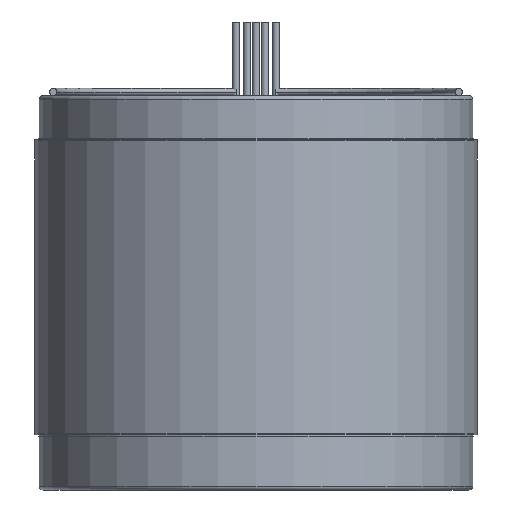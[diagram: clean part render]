
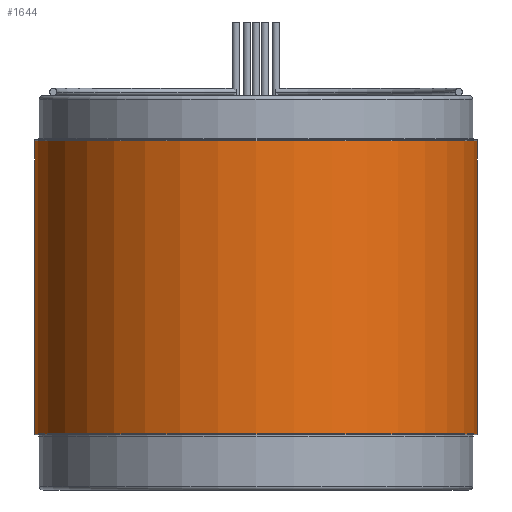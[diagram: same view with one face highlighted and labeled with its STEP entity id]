
A CAD part, front view. The second image highlights one B-rep face of the part: STEP entity #1644.
In plain terms, the highlighted cylindrical face has radius 76.2 mm (diameter 152.4 mm), a partial arc.
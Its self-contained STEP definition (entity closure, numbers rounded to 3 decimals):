
#171 = DIRECTION ( 'NONE',  ( 0., 0., 1. ) ) ;
#261 = CARTESIAN_POINT ( 'NONE',  ( -76.2, 0., -50.444 ) ) ;
#269 = AXIS2_PLACEMENT_3D ( 'NONE', #3615, #647, #601 ) ;
#353 = EDGE_LOOP ( 'NONE', ( #656, #1509, #2109, #2924 ) ) ;
#510 = DIRECTION ( 'NONE',  ( 0., 0., -1. ) ) ;
#523 = AXIS2_PLACEMENT_3D ( 'NONE', #1053, #171, #3749 ) ;
#586 = VECTOR ( 'NONE', #510, 1000. ) ;
#601 = DIRECTION ( 'NONE',  ( 1., 0., 0. ) ) ;
#646 = EDGE_CURVE ( 'NONE', #3794, #3463, #2694, .T. ) ;
#647 = DIRECTION ( 'NONE',  ( 0., 0., 1. ) ) ;
#656 = ORIENTED_EDGE ( 'NONE', *, *, #646, .F. ) ;
#896 = AXIS2_PLACEMENT_3D ( 'NONE', #2310, #2034, #2594 ) ;
#992 = DIRECTION ( 'NONE',  ( 0., 0., -1. ) ) ;
#1053 = CARTESIAN_POINT ( 'NONE',  ( 0., 0., -50.444 ) ) ;
#1151 = CARTESIAN_POINT ( 'NONE',  ( 76.2, 0., -50.444 ) ) ;
#1475 = CARTESIAN_POINT ( 'NONE',  ( -76.2, 0., 50.444 ) ) ;
#1503 = CIRCLE ( 'NONE', #523, 76.2 ) ;
#1509 = ORIENTED_EDGE ( 'NONE', *, *, #2697, .F. ) ;
#1585 = CARTESIAN_POINT ( 'NONE',  ( 76.2, 0., 50.444 ) ) ;
#1644 = ADVANCED_FACE ( 'NONE', ( #2318 ), #3023, .T. ) ;
#1917 = VECTOR ( 'NONE', #992, 1000. ) ;
#1930 = LINE ( 'NONE', #1977, #586 ) ;
#1977 = CARTESIAN_POINT ( 'NONE',  ( -76.2, 0., 50.444 ) ) ;
#2034 = DIRECTION ( 'NONE',  ( 0., 0., -1. ) ) ;
#2109 = ORIENTED_EDGE ( 'NONE', *, *, #3642, .T. ) ;
#2310 = CARTESIAN_POINT ( 'NONE',  ( 0., 0., 50.444 ) ) ;
#2318 = FACE_OUTER_BOUND ( 'NONE', #353, .T. ) ;
#2594 = DIRECTION ( 'NONE',  ( -1., 0., 0. ) ) ;
#2607 = CARTESIAN_POINT ( 'NONE',  ( 76.2, 0., 50.444 ) ) ;
#2666 = CIRCLE ( 'NONE', #269, 76.2 ) ;
#2694 = LINE ( 'NONE', #1585, #1917 ) ;
#2697 = EDGE_CURVE ( 'NONE', #3376, #3794, #2666, .T. ) ;
#2924 = ORIENTED_EDGE ( 'NONE', *, *, #3119, .T. ) ;
#3023 = CYLINDRICAL_SURFACE ( 'NONE', #896, 76.2 ) ;
#3119 = EDGE_CURVE ( 'NONE', #3247, #3463, #1503, .T. ) ;
#3247 = VERTEX_POINT ( 'NONE', #261 ) ;
#3376 = VERTEX_POINT ( 'NONE', #1475 ) ;
#3463 = VERTEX_POINT ( 'NONE', #1151 ) ;
#3615 = CARTESIAN_POINT ( 'NONE',  ( 0., 0., 50.444 ) ) ;
#3642 = EDGE_CURVE ( 'NONE', #3376, #3247, #1930, .T. ) ;
#3749 = DIRECTION ( 'NONE',  ( 1., 0., 0. ) ) ;
#3794 = VERTEX_POINT ( 'NONE', #2607 ) ;
